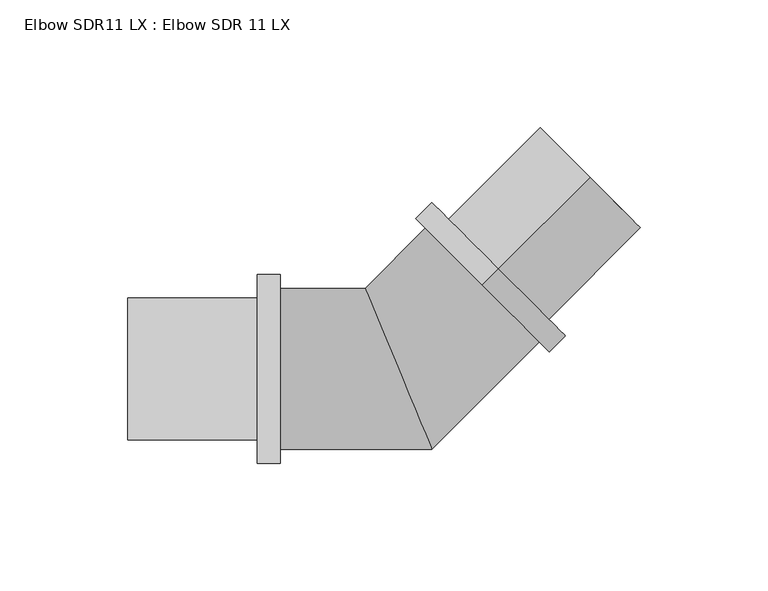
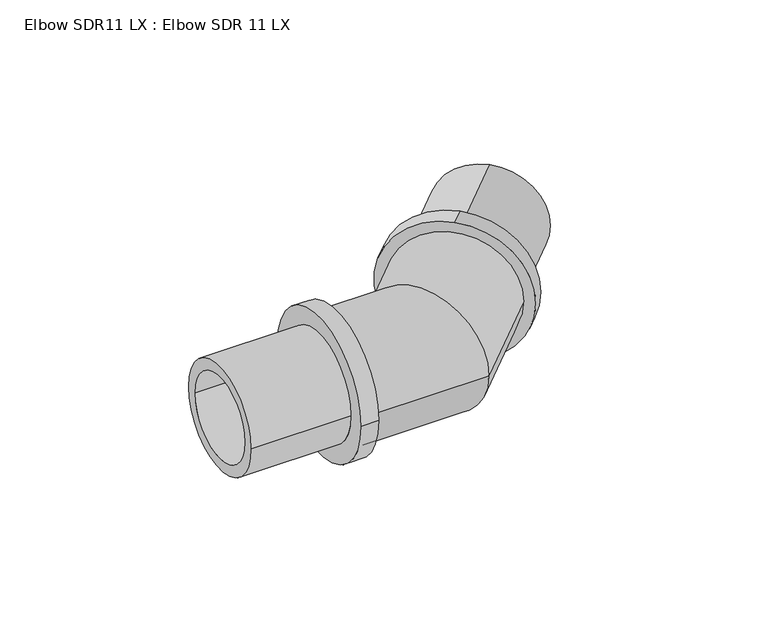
"""IFC4 building model written with IfcOpenShell, lengths in millimetres: pipe fitting geometry, Elbow SDR11 LX : Elbow SDR 11 LX."""

from ifc_helpers import new_model, si_unit, frame, origin, place, context, project, spatial, polyline, circle_curve, ellipse_curve, source, transform, mapped, element, save
from ifc_brep_helpers import plane_surface, cylinder_surface, revolved_surface, advanced_brep


def elbow_sdr11_lx_elbow_sdr_11_lx_393a3960(model_context):
    return source(origin(), model_context, "Body", "AdvancedBrep", [
        advanced_brep(
        [(-46.4, -31.5, 0.0), (-46.4, 31.5, 0.0), (-46.4, -22.0, 0.0), (-46.4, 22.0, 0.0), (13.0477272, -31.5, 0.0), (-13.0477272, 31.5, 0.0), (9.1126984, -22.0, 0.0), (-9.1126984, 22.0, 0.0), (55.0836183, 10.535891, 0.0), (10.535891, 55.0836183, 0.0), (48.3661038, 17.2534055, 0.0), (17.2534055, 48.3661038, 0.0)],
        [
            (0, 1, circle_curve(frame((-46.4, 0.0, 0.0), z_axis=(-1.0, 0.0, 0.0), x_axis=(0.0, 1.0, 0.0)), 31.5)),
            (1, 0, circle_curve(frame((-46.4, 0.0, 0.0), z_axis=(-1.0, 0.0, 0.0), x_axis=(0.0, 1.0, 0.0)), 31.5)),
            (2, 3, circle_curve(frame((-46.4, 0.0, 0.0), z_axis=(1.0, 0.0, 0.0), x_axis=(0.0, 1.0, 0.0)), 22.0)),
            (3, 2, circle_curve(frame((-46.4, 0.0, 0.0), z_axis=(1.0, 0.0, 0.0), x_axis=(0.0, 1.0, 0.0)), 22.0)),
            (0, 4),
            (4, 5, ellipse_curve(frame((0.0, 0.0, 0.0), z_axis=(-0.9238795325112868, -0.38268343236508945, 0.0), x_axis=(-0.3826834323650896, 0.923879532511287, 0.0)), 34.0953543, 31.5)),
            (5, 1),
            (5, 4, ellipse_curve(frame((0.0, 0.0, 0.0), z_axis=(-0.9238795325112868, -0.38268343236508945, 0.0), x_axis=(-0.3826834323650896, 0.923879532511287, 0.0)), 34.0953543, 31.5)),
            (2, 6),
            (6, 7, ellipse_curve(frame((0.0, 0.0, 0.0), z_axis=(0.9238795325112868, 0.38268343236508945, 0.0), x_axis=(0.3826834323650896, -0.923879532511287, 0.0)), 23.8126284, 22.0)),
            (7, 3),
            (7, 6, ellipse_curve(frame((0.0, 0.0, 0.0), z_axis=(0.9238795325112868, 0.38268343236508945, 0.0), x_axis=(0.3826834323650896, -0.923879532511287, 0.0)), 23.8126284, 22.0)),
            (8, 9, circle_curve(frame((32.8097546, 32.8097546, 0.0), z_axis=(0.707106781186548, 0.707106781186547, 0.0), x_axis=(-0.707106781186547, 0.707106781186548, 0.0)), 31.5)),
            (9, 8, circle_curve(frame((32.8097546, 32.8097546, 0.0), z_axis=(0.707106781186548, 0.707106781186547, 0.0), x_axis=(-0.707106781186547, 0.707106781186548, 0.0)), 31.5)),
            (10, 11, circle_curve(frame((32.8097546, 32.8097546, 0.0), z_axis=(-0.707106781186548, -0.707106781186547, 0.0), x_axis=(-0.707106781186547, 0.707106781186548, 0.0)), 22.0)),
            (11, 10, circle_curve(frame((32.8097546, 32.8097546, 0.0), z_axis=(-0.707106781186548, -0.707106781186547, 0.0), x_axis=(-0.707106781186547, 0.707106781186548, 0.0)), 22.0)),
            (4, 8),
            (9, 5),
            (6, 10),
            (11, 7),
        ],
        [
            plane_surface(frame((-46.4, 0.0, 0.0), z_axis=(-1.0, 0.0, 0.0), x_axis=(0.0, 0.0, 1.0))),
            cylinder_surface(frame((-46.4, 0.0, 0.0), z_axis=(-1.0, 0.0, 0.0), x_axis=(0.0, 1.0, 0.0)), 31.5),
            revolved_surface(polyline([(9.1126984, 22.0, 0.0), (-46.4, 22.0, 0.0)]), (-46.4, 0.0, 0.0), (1.0, 0.0, 0.0)),
            plane_surface(frame((32.8097546, 32.8097546, 0.0), z_axis=(0.707106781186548, 0.7071067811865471, 0.0), x_axis=(0.0, 0.0, 1.0))),
            cylinder_surface(frame((0.0, 0.0, 0.0), z_axis=(-0.707106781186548, -0.707106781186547, 0.0), x_axis=(-0.707106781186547, 0.707106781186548, 0.0)), 31.5),
            revolved_surface(polyline([(17.253405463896, 48.366103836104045, 0.0), (-21.99999999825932, 9.112698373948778, 0.0)]), (0.0, 0.0, 0.0), (0.707106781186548, 0.707106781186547, 0.0)),
        ],
        [
            (0, [[1, 2], [3, 4]]),
            (1, [[-1, 5, 6, 7]]),
            (1, [[-2, -7, 8, -5]]),
            (2, [[-3, 9, 10, 11]]),
            (2, [[-4, -11, 12, -9]]),
            (3, [[13, 14], [15, 16]]),
            (4, [[-6, 17, -14, 18]]),
            (4, [[-8, -18, -13, -17]]),
            (5, [[-10, 19, -16, 20]]),
            (5, [[-12, -20, -15, -19]]),
        ],
    ),
        advanced_brep(
        [(74.9533188, 74.9533188, 22.0), (74.9533188, 74.9533188, -22.0), (32.8097546, 32.8097546, -22.0), (32.8097546, 32.8097546, 22.0), (39.103005, 39.103005, 27.8), (39.103005, 39.103005, -27.8), (74.9533188, 74.9533188, -27.8), (74.9533188, 74.9533188, 27.8), (32.8097546, 32.8097546, 37.0), (32.8097546, 32.8097546, -37.0), (39.103005, 39.103005, -37.0), (39.103005, 39.103005, 37.0)],
        [
            (0, 1, circle_curve(frame((74.9533188, 74.9533188, 0.0), z_axis=(0.7071067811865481, 0.707106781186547, 0.0), x_axis=(0.0, 0.0, -1.0)), 22.0)),
            (1, 2),
            (2, 3, circle_curve(frame((32.8097546, 32.8097546, 0.0), z_axis=(-0.7071067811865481, -0.707106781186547, 0.0), x_axis=(0.0, 0.0, -1.0)), 22.0)),
            (3, 0),
            (4, 5, circle_curve(frame((39.103005, 39.103005, 0.0), z_axis=(0.7071067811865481, 0.707106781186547, 0.0), x_axis=(0.0, 0.0, -1.0)), 27.8)),
            (5, 6),
            (6, 7, circle_curve(frame((74.9533188, 74.9533188, 0.0), z_axis=(-0.7071067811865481, -0.707106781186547, 0.0), x_axis=(0.0, 0.0, -1.0)), 27.8)),
            (7, 4),
            (8, 9, circle_curve(frame((32.8097546, 32.8097546, 0.0), z_axis=(0.7071067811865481, 0.707106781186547, 0.0), x_axis=(0.0, 0.0, -1.0)), 37.0)),
            (9, 10),
            (10, 11, circle_curve(frame((39.103005, 39.103005, 0.0), z_axis=(-0.7071067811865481, -0.707106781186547, 0.0), x_axis=(0.0, 0.0, -1.0)), 37.0)),
            (11, 8),
            (1, 0, circle_curve(frame((74.9533188, 74.9533188, 0.0), z_axis=(0.7071067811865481, 0.707106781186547, 0.0), x_axis=(0.0, 0.0, 1.0)), 22.0)),
            (3, 2, circle_curve(frame((32.8097546, 32.8097546, 0.0), z_axis=(-0.7071067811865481, -0.707106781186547, 0.0), x_axis=(0.0, 0.0, 1.0)), 22.0)),
            (6, 7, circle_curve(frame((74.9533188, 74.9533188, 0.0), z_axis=(0.7071067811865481, 0.707106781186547, 0.0), x_axis=(0.0, 0.0, 1.0)), 27.8)),
            (5, 4, circle_curve(frame((39.103005, 39.103005, 0.0), z_axis=(0.7071067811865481, 0.707106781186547, 0.0), x_axis=(0.0, 0.0, 1.0)), 27.8)),
            (10, 11, circle_curve(frame((39.103005, 39.103005, 0.0), z_axis=(0.7071067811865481, 0.707106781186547, 0.0), x_axis=(0.0, 0.0, 1.0)), 37.0)),
            (9, 8, circle_curve(frame((32.8097546, 32.8097546, 0.0), z_axis=(0.7071067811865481, 0.707106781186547, 0.0), x_axis=(0.0, 0.0, 1.0)), 37.0)),
        ],
        [
            revolved_surface(polyline([(32.80975460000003, 32.80975459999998, -22.0), (74.95331880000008, 74.95331879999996, -22.0)]), (0.0, 0.0, 0.0), (-0.7071067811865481, -0.707106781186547, 0.0)),
            cylinder_surface(frame((0.0, 0.0, 0.0), z_axis=(-0.7071067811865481, -0.707106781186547, 0.0), x_axis=(0.0, 0.0, -1.0)), 27.8),
            cylinder_surface(frame((0.0, 0.0, 0.0), z_axis=(-0.7071067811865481, -0.707106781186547, 0.0), x_axis=(0.0, 0.0, -1.0)), 37.0),
            revolved_surface(polyline([(32.80975460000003, 32.80975459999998, 22.0), (74.95331880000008, 74.95331879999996, 22.0)]), (0.0, 0.0, 0.0), (-0.7071067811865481, -0.707106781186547, 0.0)),
            plane_surface(frame((74.9533188, 74.9533188, 0.0), z_axis=(0.7071067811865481, 0.707106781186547, 0.0), x_axis=(0.0, 0.0, 1.0))),
            cylinder_surface(frame((0.0, 0.0, 0.0), z_axis=(-0.7071067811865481, -0.707106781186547, 0.0), x_axis=(0.0, 0.0, 1.0)), 27.8),
            plane_surface(frame((39.103005, 39.103005, 0.0), z_axis=(0.7071067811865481, 0.707106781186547, 0.0), x_axis=(0.0, 0.0, 1.0))),
            cylinder_surface(frame((0.0, 0.0, 0.0), z_axis=(-0.7071067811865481, -0.707106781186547, 0.0), x_axis=(0.0, 0.0, 1.0)), 37.0),
            plane_surface(frame((32.8097546, 32.8097546, 0.0), z_axis=(-0.7071067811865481, -0.707106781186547, 0.0), x_axis=(0.0, 0.0, 1.0))),
        ],
        [
            (0, [[1, 2, 3, 4]]),
            (1, [[5, 6, 7, 8]]),
            (2, [[9, 10, 11, 12]]),
            (3, [[13, -4, 14, -2]]),
            (4, [[15, -7], [-13, -1]]),
            (5, [[16, -8, -15, -6]]),
            (6, [[17, -11], [-16, -5]]),
            (7, [[18, -12, -17, -10]]),
            (8, [[-18, -9], [-14, -3]]),
        ],
    ),
        advanced_brep(
        [(-46.4, 37.0, 0.0), (-46.4, -37.0, 0.0), (-55.3, -37.0, 0.0), (-55.3, 37.0, 0.0), (-55.3, 27.8, 0.0), (-55.3, -27.8, 0.0), (-106.0, -27.8, 0.0), (-106.0, 27.8, 0.0), (-106.0, 22.0, 0.0), (-106.0, -22.0, 0.0), (-46.4, -22.0, 0.0), (-46.4, 22.0, 0.0)],
        [
            (0, 1, circle_curve(frame((-46.4, 0.0, 0.0), z_axis=(-1.0, 0.0, 0.0), x_axis=(0.0, -1.0, 0.0)), 37.0)),
            (1, 2),
            (2, 3, circle_curve(frame((-55.3, 0.0, 0.0), z_axis=(1.0, 0.0, 0.0), x_axis=(0.0, -1.0, 0.0)), 37.0)),
            (3, 0),
            (4, 5, circle_curve(frame((-55.3, 0.0, 0.0), z_axis=(-1.0, 0.0, 0.0), x_axis=(0.0, -1.0, 0.0)), 27.8)),
            (5, 6),
            (6, 7, circle_curve(frame((-106.0, 0.0, 0.0), z_axis=(1.0, 0.0, 0.0), x_axis=(0.0, -1.0, 0.0)), 27.8)),
            (7, 4),
            (8, 9, circle_curve(frame((-106.0, 0.0, 0.0), z_axis=(-1.0, 0.0, 0.0), x_axis=(0.0, -1.0, 0.0)), 22.0)),
            (9, 10),
            (10, 11, circle_curve(frame((-46.4, 0.0, 0.0), z_axis=(1.0, 0.0, 0.0), x_axis=(0.0, -1.0, 0.0)), 22.0)),
            (11, 8),
            (0, 1, circle_curve(frame((-46.4, 0.0, 0.0), z_axis=(1.0, 0.0, 0.0), x_axis=(0.0, 1.0, 0.0)), 37.0)),
            (10, 11, circle_curve(frame((-46.4, 0.0, 0.0), z_axis=(-1.0, 0.0, 0.0), x_axis=(0.0, 1.0, 0.0)), 22.0)),
            (3, 2, circle_curve(frame((-55.3, 0.0, 0.0), z_axis=(1.0, 0.0, 0.0), x_axis=(0.0, 1.0, 0.0)), 37.0)),
            (4, 5, circle_curve(frame((-55.3, 0.0, 0.0), z_axis=(1.0, 0.0, 0.0), x_axis=(0.0, 1.0, 0.0)), 27.8)),
            (7, 6, circle_curve(frame((-106.0, 0.0, 0.0), z_axis=(1.0, 0.0, 0.0), x_axis=(0.0, 1.0, 0.0)), 27.8)),
            (8, 9, circle_curve(frame((-106.0, 0.0, 0.0), z_axis=(1.0, 0.0, 0.0), x_axis=(0.0, 1.0, 0.0)), 22.0)),
        ],
        [
            cylinder_surface(frame((0.0, 0.0, 0.0), z_axis=(1.0, 0.0, 0.0), x_axis=(0.0, -1.0, 0.0)), 37.0),
            cylinder_surface(frame((0.0, 0.0, 0.0), z_axis=(1.0, 0.0, 0.0), x_axis=(0.0, -1.0, 0.0)), 27.8),
            revolved_surface(polyline([(-46.4, -22.0, 0.0), (-106.0, -22.0, 0.0)]), (0.0, 0.0, 0.0), (1.0, 0.0, 0.0)),
            plane_surface(frame((-46.4, 0.0, 0.0), z_axis=(1.0, 0.0, 0.0), x_axis=(0.0, 1.0, 0.0))),
            cylinder_surface(frame((0.0, 0.0, 0.0), z_axis=(1.0, 0.0, 0.0), x_axis=(0.0, 1.0, 0.0)), 37.0),
            plane_surface(frame((-55.3, 0.0, 0.0), z_axis=(-1.0, 0.0, 0.0), x_axis=(0.0, 1.0, 0.0))),
            cylinder_surface(frame((0.0, 0.0, 0.0), z_axis=(1.0, 0.0, 0.0), x_axis=(0.0, 1.0, 0.0)), 27.8),
            plane_surface(frame((-106.0, 0.0, 0.0), z_axis=(-1.0, 0.0, 0.0), x_axis=(0.0, 1.0, 0.0))),
            revolved_surface(polyline([(-46.4, 22.0, 0.0), (-106.0, 22.0, 0.0)]), (0.0, 0.0, 0.0), (1.0, 0.0, 0.0)),
        ],
        [
            (0, [[1, 2, 3, 4]]),
            (1, [[5, 6, 7, 8]]),
            (2, [[9, 10, 11, 12]]),
            (3, [[13, -1], [14, -11]]),
            (4, [[-13, -4, 15, -2]]),
            (5, [[-15, -3], [16, -5]]),
            (6, [[-16, -8, 17, -6]]),
            (7, [[-17, -7], [18, -9]]),
            (8, [[-18, -12, -14, -10]]),
        ],
    ),
    ])


if __name__ == "__main__":
    model = new_model("IFC4")
    model_context = context("Model", 3, world=origin())
    ifc_project = project(units=[si_unit("LENGTHUNIT", "METRE", prefix="MILLI")], contexts=[model_context])
    site = spatial("IfcSite", under=ifc_project)
    building = spatial("IfcBuilding", under=site)
    placement = place(None, origin())
    elbow_sdr11_lx_elbow_sdr_11_lx_shape = elbow_sdr11_lx_elbow_sdr_11_lx_393a3960(model_context)
    element("IfcPipeFitting", 1, ObjectType="Elbow SDR11 LX : Elbow SDR 11 LX", at=placement, inside=building, context=model_context, shape_type="MappedRepresentation", body=[
        mapped(elbow_sdr11_lx_elbow_sdr_11_lx_shape, transform((0.0, 0.0, 0.0), x_axis=(1.0, 0.0, 0.0), y_axis=(0.0, 1.0, 0.0), z_axis=(0.0, 0.0, 1.0))),
    ])
    save(model, "model.ifc")
